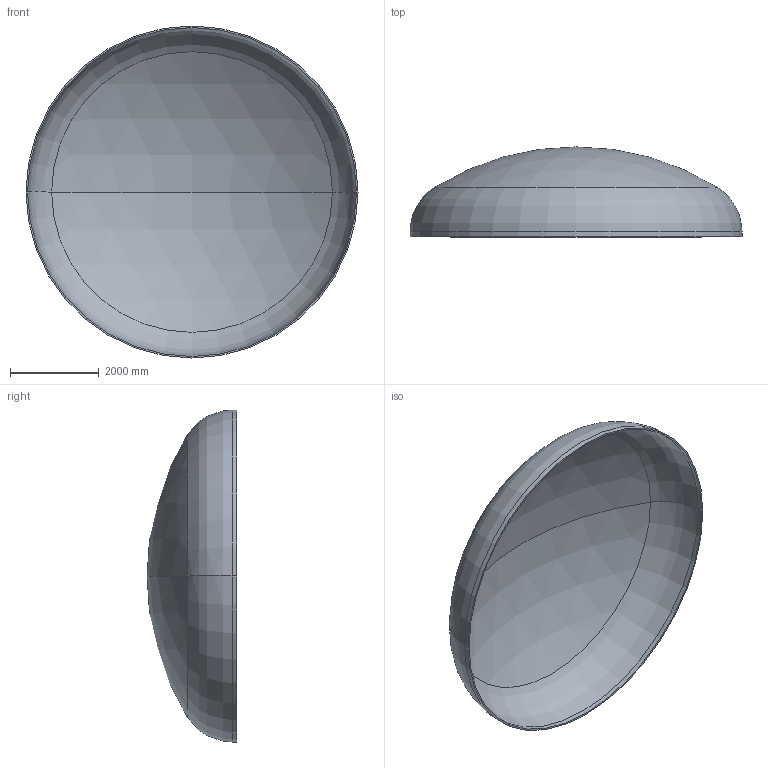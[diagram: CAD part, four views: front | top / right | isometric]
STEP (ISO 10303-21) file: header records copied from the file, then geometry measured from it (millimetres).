
FILE_DESCRIPTION (( 'STEP AP203' ), '1' );
FILE_NAME ('DIN 28013 Korbbogenform_-_Boden DIN 28013 - 7500 x 110 - I - s=34.step', '2016-07-04T10:53:14', ( '' ), ( '' ), 'SwSTEP 2.0', 'SolidWorks 2013', '' );
FILE_SCHEMA (( 'CONFIG_CONTROL_DESIGN' ));
Length unit declared in the file: millimetre
Products named in the file (1): DIN 28013 Korbbogenform_-_Boden DIN 28013 - 7500 x 110 - I - s=34
Bounding box: 7500 x 2031.18 x 7500 mm (x, y, z)
Volume: 2155730127.2 mm3; surface area: 127607499.7 mm2
Topology: 1 solids, 1 shells, 13 faces, 24 edges, 14 vertices
Faces by surface type: torus 4, cylinder 4, sphere 4, plane 1
Entity records: 407 total; most frequent: DIRECTION 72, CARTESIAN_POINT 52, ORIENTED_EDGE 48, AXIS2_PLACEMENT_3D 34, EDGE_CURVE 24, CIRCLE 20, VERTEX_POINT 14, EDGE_LOOP 14
